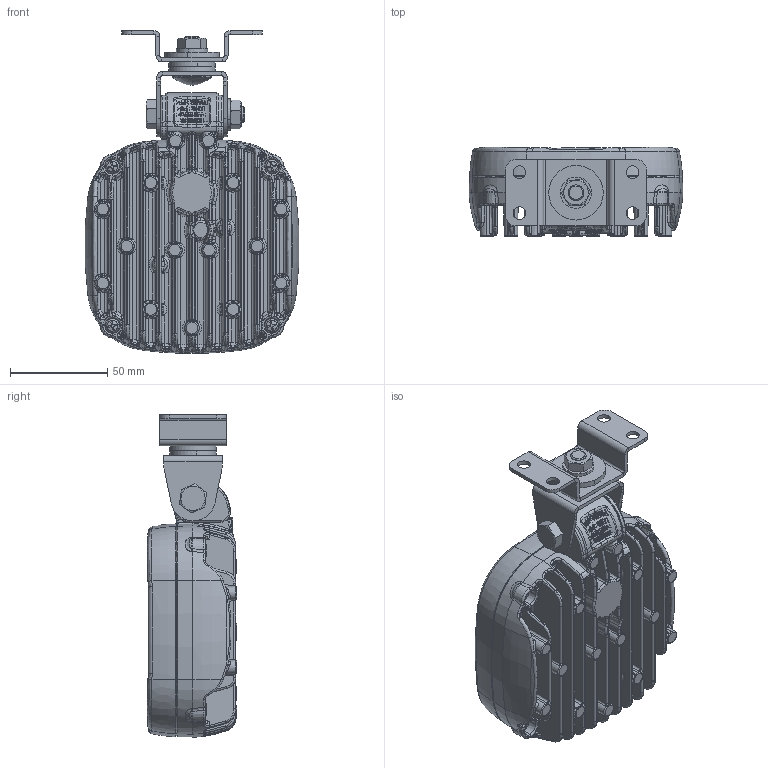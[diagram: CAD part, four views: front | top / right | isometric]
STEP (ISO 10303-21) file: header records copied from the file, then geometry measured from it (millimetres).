
FILE_DESCRIPTION (( 'STEP AP214' ), '1' );
FILE_NAME ('LED-MARTIN_Zelor_quadratisch.STEP', '2017-08-11T11:52:28', ( '' ), ( '' ), 'SwSTEP 2.0', 'SolidWorks 2013', '' );
FILE_SCHEMA (( 'AUTOMOTIVE_DESIGN' ));
Length unit declared in the file: millimetre
Products named in the file (16): Klosz_L306_BRYLA; Oslona_L306_BRYLA; BRYLA_W166_W167; Amortyzator lewy_W162_V1_1153.00.09; Amortyzator prawy_W162_V1_1153.00.08; Uchwyt_W162; Podkladka M8_2_W81_683.00.10; Nakretka M8_W81_53.00.27; Podkladka M10_W81_683.00.03; Podkladka M8_W81_683.00.11; Sruba zamkowa M8_W81_683.00.02; Sruba M8_W81_683.00.01; Polowa zawiasu 2Z_W81_683.00.35; Polowa zawiasu C_W81_683.00.33; Korpus_W166_V1_BRYLA; Wkret_L306_869.00.34
Assembly tree (21 placements, depth 3):
  BRYLA_W166_W167
    Oslona_L306_BRYLA
    Klosz_L306_BRYLA
    Wkret_L306_869.00.34  x4
    Korpus_W166_V1_BRYLA
    Uchwyt_W162
      Polowa zawiasu C_W81_683.00.33
      Polowa zawiasu 2Z_W81_683.00.35
      Sruba M8_W81_683.00.01
      Sruba zamkowa M8_W81_683.00.02
      Podkladka M8_W81_683.00.11  x2
      Podkladka M10_W81_683.00.03  x2
      Nakretka M8_W81_53.00.27  x2
      Podkladka M8_2_W81_683.00.10
    Amortyzator prawy_W162_V1_1153.00.08
    Amortyzator lewy_W162_V1_1153.00.09
Bounding box: 109.73 x 45.83 x 165.59 mm (x, y, z)
Volume: 424491.7 mm3; surface area: 135617.7 mm2
Topology: 20 solids, 20 shells, 3257 faces, 7992 edges, 4671 vertices
Faces by surface type: bspline 1192, plane 678, torus 616, cylinder 439, cone 310, sphere 22
Entity records: 128926 total; most frequent: CARTESIAN_POINT 63816, ORIENTED_EDGE 15072, DIRECTION 11684, EDGE_CURVE 7536, AXIS2_PLACEMENT_3D 5046, VERTEX_POINT 4474, EDGE_LOOP 3210, FACE_OUTER_BOUND 3131
